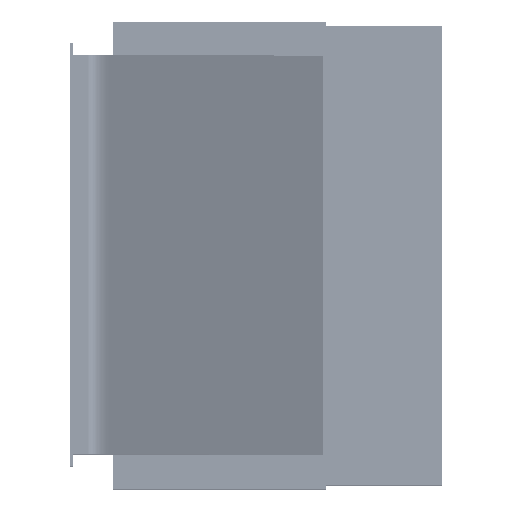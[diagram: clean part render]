
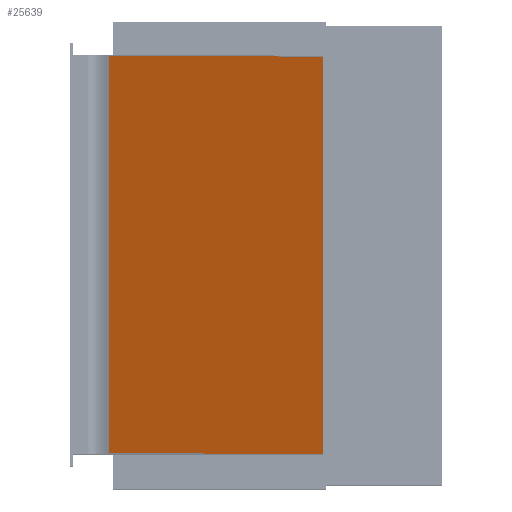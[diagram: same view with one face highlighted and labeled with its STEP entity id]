
A CAD part, top view. The second image highlights one B-rep face of the part: STEP entity #25639.
In plain terms, the highlighted planar face has unit normal (0.952, 0, 0.305).
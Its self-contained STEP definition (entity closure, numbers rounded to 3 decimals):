
#24206 = PLANE('',#24207);
#24207 = AXIS2_PLACEMENT_3D('',#24208,#24209,#24210);
#24208 = CARTESIAN_POINT('',(210.357,306.,1681.197));
#24209 = DIRECTION('',(-0.,-1.,-0.));
#24210 = DIRECTION('',(0.,0.,-1.));
#24260 = PLANE('',#24261);
#24261 = AXIS2_PLACEMENT_3D('',#24262,#24263,#24264);
#24262 = CARTESIAN_POINT('',(210.357,-306.,1681.197));
#24263 = DIRECTION('',(-0.,-1.,-0.));
#24264 = DIRECTION('',(0.,0.,-1.));
#25531 = PLANE('',#25532);
#25532 = AXIS2_PLACEMENT_3D('',#25533,#25534,#25535);
#25533 = CARTESIAN_POINT('',(388.813,-306.,1124.));
#25534 = DIRECTION('',(0.,0.,-1.));
#25535 = DIRECTION('',(1.,0.,0.));
#25569 = VERTEX_POINT('',#25570);
#25570 = CARTESIAN_POINT('',(390.387,306.,1124.));
#25591 = EDGE_CURVE('',#25592,#25569,#25594,.T.);
#25592 = VERTEX_POINT('',#25593);
#25593 = CARTESIAN_POINT('',(390.387,-306.,1124.));
#25594 = SURFACE_CURVE('',#25595,(#25599,#25606),.PCURVE_S1.);
#25595 = LINE('',#25596,#25597);
#25596 = CARTESIAN_POINT('',(390.387,-306.,1124.));
#25597 = VECTOR('',#25598,1.);
#25598 = DIRECTION('',(0.,1.,0.));
#25599 = PCURVE('',#25531,#25600);
#25600 = DEFINITIONAL_REPRESENTATION('',(#25601),#25605);
#25601 = LINE('',#25602,#25603);
#25602 = CARTESIAN_POINT('',(1.575,0.));
#25603 = VECTOR('',#25604,1.);
#25604 = DIRECTION('',(0.,-1.));
#25605 = ( GEOMETRIC_REPRESENTATION_CONTEXT(2) 
PARAMETRIC_REPRESENTATION_CONTEXT() REPRESENTATION_CONTEXT('2D SPACE',''
  ) );
#25606 = PCURVE('',#25607,#25612);
#25607 = PLANE('',#25608);
#25608 = AXIS2_PLACEMENT_3D('',#25609,#25610,#25611);
#25609 = CARTESIAN_POINT('',(390.387,-306.,1124.));
#25610 = DIRECTION('',(0.952,-0.,0.305));
#25611 = DIRECTION('',(-0.305,0.,0.952));
#25612 = DEFINITIONAL_REPRESENTATION('',(#25613),#25617);
#25613 = LINE('',#25614,#25615);
#25614 = CARTESIAN_POINT('',(0.,0.));
#25615 = VECTOR('',#25616,1.);
#25616 = DIRECTION('',(0.,-1.));
#25617 = ( GEOMETRIC_REPRESENTATION_CONTEXT(2) 
PARAMETRIC_REPRESENTATION_CONTEXT() REPRESENTATION_CONTEXT('2D SPACE',''
  ) );
#25639 = ADVANCED_FACE('',(#25640),#25607,.T.);
#25640 = FACE_BOUND('',#25641,.T.);
#25641 = EDGE_LOOP('',(#25642,#25643,#25666,#25694));
#25642 = ORIENTED_EDGE('',*,*,#25591,.T.);
#25643 = ORIENTED_EDGE('',*,*,#25644,.T.);
#25644 = EDGE_CURVE('',#25569,#25645,#25647,.T.);
#25645 = VERTEX_POINT('',#25646);
#25646 = CARTESIAN_POINT('',(60.713,306.,2154.232));
#25647 = SURFACE_CURVE('',#25648,(#25652,#25659),.PCURVE_S1.);
#25648 = LINE('',#25649,#25650);
#25649 = CARTESIAN_POINT('',(390.387,306.,1124.));
#25650 = VECTOR('',#25651,1.);
#25651 = DIRECTION('',(-0.305,0.,0.952));
#25652 = PCURVE('',#25607,#25653);
#25653 = DEFINITIONAL_REPRESENTATION('',(#25654),#25658);
#25654 = LINE('',#25655,#25656);
#25655 = CARTESIAN_POINT('',(0.,-612.));
#25656 = VECTOR('',#25657,1.);
#25657 = DIRECTION('',(1.,0.));
#25658 = ( GEOMETRIC_REPRESENTATION_CONTEXT(2) 
PARAMETRIC_REPRESENTATION_CONTEXT() REPRESENTATION_CONTEXT('2D SPACE',''
  ) );
#25659 = PCURVE('',#24206,#25660);
#25660 = DEFINITIONAL_REPRESENTATION('',(#25661),#25665);
#25661 = LINE('',#25662,#25663);
#25662 = CARTESIAN_POINT('',(557.197,180.031));
#25663 = VECTOR('',#25664,1.);
#25664 = DIRECTION('',(-0.952,-0.305));
#25665 = ( GEOMETRIC_REPRESENTATION_CONTEXT(2) 
PARAMETRIC_REPRESENTATION_CONTEXT() REPRESENTATION_CONTEXT('2D SPACE',''
  ) );
#25666 = ORIENTED_EDGE('',*,*,#25667,.F.);
#25667 = EDGE_CURVE('',#25668,#25645,#25670,.T.);
#25668 = VERTEX_POINT('',#25669);
#25669 = CARTESIAN_POINT('',(60.713,-306.,2154.232));
#25670 = SURFACE_CURVE('',#25671,(#25675,#25682),.PCURVE_S1.);
#25671 = LINE('',#25672,#25673);
#25672 = CARTESIAN_POINT('',(60.713,-306.,2154.232));
#25673 = VECTOR('',#25674,1.);
#25674 = DIRECTION('',(0.,1.,0.));
#25675 = PCURVE('',#25607,#25676);
#25676 = DEFINITIONAL_REPRESENTATION('',(#25677),#25681);
#25677 = LINE('',#25678,#25679);
#25678 = CARTESIAN_POINT('',(1081.694,0.));
#25679 = VECTOR('',#25680,1.);
#25680 = DIRECTION('',(0.,-1.));
#25681 = ( GEOMETRIC_REPRESENTATION_CONTEXT(2) 
PARAMETRIC_REPRESENTATION_CONTEXT() REPRESENTATION_CONTEXT('2D SPACE',''
  ) );
#25682 = PCURVE('',#25683,#25688);
#25683 = PLANE('',#25684);
#25684 = AXIS2_PLACEMENT_3D('',#25685,#25686,#25687);
#25685 = CARTESIAN_POINT('',(60.713,-306.,2154.232));
#25686 = DIRECTION('',(0.95,-0.,0.314));
#25687 = DIRECTION('',(-0.314,0.,0.95));
#25688 = DEFINITIONAL_REPRESENTATION('',(#25689),#25693);
#25689 = LINE('',#25690,#25691);
#25690 = CARTESIAN_POINT('',(0.,0.));
#25691 = VECTOR('',#25692,1.);
#25692 = DIRECTION('',(0.,-1.));
#25693 = ( GEOMETRIC_REPRESENTATION_CONTEXT(2) 
PARAMETRIC_REPRESENTATION_CONTEXT() REPRESENTATION_CONTEXT('2D SPACE',''
  ) );
#25694 = ORIENTED_EDGE('',*,*,#25695,.F.);
#25695 = EDGE_CURVE('',#25592,#25668,#25696,.T.);
#25696 = SURFACE_CURVE('',#25697,(#25701,#25708),.PCURVE_S1.);
#25697 = LINE('',#25698,#25699);
#25698 = CARTESIAN_POINT('',(390.387,-306.,1124.));
#25699 = VECTOR('',#25700,1.);
#25700 = DIRECTION('',(-0.305,0.,0.952));
#25701 = PCURVE('',#25607,#25702);
#25702 = DEFINITIONAL_REPRESENTATION('',(#25703),#25707);
#25703 = LINE('',#25704,#25705);
#25704 = CARTESIAN_POINT('',(0.,0.));
#25705 = VECTOR('',#25706,1.);
#25706 = DIRECTION('',(1.,0.));
#25707 = ( GEOMETRIC_REPRESENTATION_CONTEXT(2) 
PARAMETRIC_REPRESENTATION_CONTEXT() REPRESENTATION_CONTEXT('2D SPACE',''
  ) );
#25708 = PCURVE('',#24260,#25709);
#25709 = DEFINITIONAL_REPRESENTATION('',(#25710),#25714);
#25710 = LINE('',#25711,#25712);
#25711 = CARTESIAN_POINT('',(557.197,180.031));
#25712 = VECTOR('',#25713,1.);
#25713 = DIRECTION('',(-0.952,-0.305));
#25714 = ( GEOMETRIC_REPRESENTATION_CONTEXT(2) 
PARAMETRIC_REPRESENTATION_CONTEXT() REPRESENTATION_CONTEXT('2D SPACE',''
  ) );
